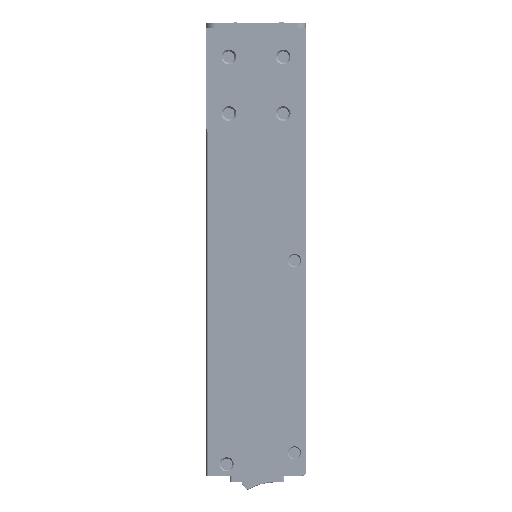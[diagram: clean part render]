
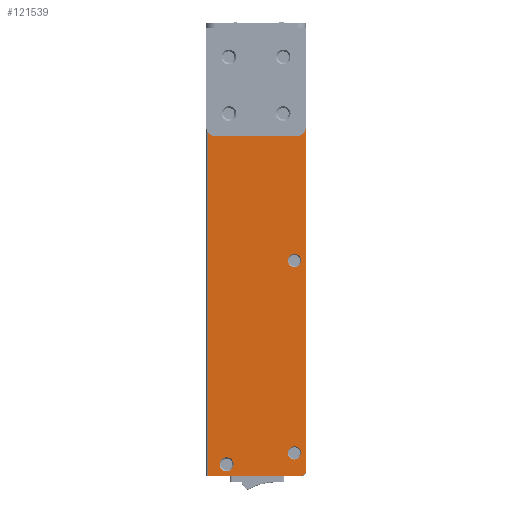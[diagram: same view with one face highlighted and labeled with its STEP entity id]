
A CAD part, left-side view. The second image highlights one B-rep face of the part: STEP entity #121539.
In plain terms, the highlighted planar face has unit normal (-1, 0, 0).
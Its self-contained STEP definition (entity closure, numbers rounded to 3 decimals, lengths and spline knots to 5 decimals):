
#2262=LINE('',#178833,#16146);
#2266=LINE('',#178842,#16150);
#2270=LINE('',#178850,#16154);
#2273=LINE('',#178860,#16157);
#2274=LINE('',#178862,#16158);
#2275=LINE('',#178864,#16159);
#2276=LINE('',#178866,#16160);
#16146=VECTOR('',#143300,1.);
#16150=VECTOR('',#143306,1.);
#16154=VECTOR('',#143312,1.);
#16157=VECTOR('',#143323,1.);
#16158=VECTOR('',#143324,1.);
#16159=VECTOR('',#143325,1.);
#16160=VECTOR('',#143326,1.);
#29072=PLANE('',#129517);
#39126=ORIENTED_EDGE('',*,*,#72925,.F.);
#39127=ORIENTED_EDGE('',*,*,#72931,.F.);
#39128=ORIENTED_EDGE('',*,*,#72934,.F.);
#39129=ORIENTED_EDGE('',*,*,#72937,.F.);
#39130=ORIENTED_EDGE('',*,*,#72940,.F.);
#39131=ORIENTED_EDGE('',*,*,#72943,.F.);
#39132=ORIENTED_EDGE('',*,*,#72945,.F.);
#39133=ORIENTED_EDGE('',*,*,#72947,.F.);
#39134=ORIENTED_EDGE('',*,*,#72956,.F.);
#39135=ORIENTED_EDGE('',*,*,#72952,.F.);
#39136=ORIENTED_EDGE('',*,*,#72948,.T.);
#39137=ORIENTED_EDGE('',*,*,#72961,.F.);
#39138=ORIENTED_EDGE('',*,*,#72962,.F.);
#39139=ORIENTED_EDGE('',*,*,#72963,.T.);
#39140=ORIENTED_EDGE('',*,*,#72964,.F.);
#39141=ORIENTED_EDGE('',*,*,#72960,.F.);
#72925=EDGE_CURVE('',#90236,#90236,#101230,.T.);
#72931=EDGE_CURVE('',#90242,#90242,#101236,.T.);
#72934=EDGE_CURVE('',#90245,#90245,#101239,.T.);
#72937=EDGE_CURVE('',#90248,#90248,#101242,.T.);
#72940=EDGE_CURVE('',#90251,#90251,#101245,.T.);
#72943=EDGE_CURVE('',#90254,#90254,#101248,.T.);
#72945=EDGE_CURVE('',#90256,#90256,#101250,.T.);
#72947=EDGE_CURVE('',#90258,#90258,#101252,.T.);
#72948=EDGE_CURVE('',#90259,#90260,#2262,.T.);
#72952=EDGE_CURVE('',#90259,#90263,#2266,.T.);
#72956=EDGE_CURVE('',#90263,#90266,#2270,.T.);
#72960=EDGE_CURVE('',#90266,#90268,#101254,.T.);
#72961=EDGE_CURVE('',#90269,#90260,#2273,.T.);
#72962=EDGE_CURVE('',#90270,#90269,#2274,.T.);
#72963=EDGE_CURVE('',#90270,#90271,#2275,.T.);
#72964=EDGE_CURVE('',#90268,#90271,#2276,.T.);
#90236=VERTEX_POINT('',#178772);
#90242=VERTEX_POINT('',#178789);
#90245=VERTEX_POINT('',#178797);
#90248=VERTEX_POINT('',#178805);
#90251=VERTEX_POINT('',#178813);
#90254=VERTEX_POINT('',#178821);
#90256=VERTEX_POINT('',#178826);
#90258=VERTEX_POINT('',#178831);
#90259=VERTEX_POINT('',#178834);
#90260=VERTEX_POINT('',#178835);
#90263=VERTEX_POINT('',#178843);
#90266=VERTEX_POINT('',#178851);
#90268=VERTEX_POINT('',#178856);
#90269=VERTEX_POINT('',#178861);
#90270=VERTEX_POINT('',#178863);
#90271=VERTEX_POINT('',#178865);
#101230=CIRCLE('',#129473,0.0022);
#101236=CIRCLE('',#129484,0.0022);
#101239=CIRCLE('',#129489,0.0031);
#101242=CIRCLE('',#129494,0.0029);
#101245=CIRCLE('',#129499,0.0029);
#101248=CIRCLE('',#129504,0.0029);
#101250=CIRCLE('',#129507,0.002);
#101252=CIRCLE('',#129510,0.002);
#101254=CIRCLE('',#129516,0.002);
#105976=EDGE_LOOP('',(#39126));
#105977=EDGE_LOOP('',(#39127));
#105978=EDGE_LOOP('',(#39128));
#105979=EDGE_LOOP('',(#39129));
#105980=EDGE_LOOP('',(#39130));
#105981=EDGE_LOOP('',(#39131));
#105982=EDGE_LOOP('',(#39132));
#105983=EDGE_LOOP('',(#39133));
#105984=EDGE_LOOP('',(#39134,#39135,#39136,#39137,#39138,#39139,#39140,
#39141));
#113892=FACE_BOUND('',#105976,.T.);
#113893=FACE_BOUND('',#105977,.T.);
#113894=FACE_BOUND('',#105978,.T.);
#113895=FACE_BOUND('',#105979,.T.);
#113896=FACE_BOUND('',#105980,.T.);
#113897=FACE_BOUND('',#105981,.T.);
#113898=FACE_BOUND('',#105982,.T.);
#113899=FACE_BOUND('',#105983,.T.);
#113900=FACE_BOUND('',#105984,.T.);
#121539=ADVANCED_FACE('',(#113892,#113893,#113894,#113895,#113896,#113897,
#113898,#113899,#113900),#29072,.T.);
#129473=AXIS2_PLACEMENT_3D('',#178771,#143222,#143223);
#129484=AXIS2_PLACEMENT_3D('',#178788,#143244,#143245);
#129489=AXIS2_PLACEMENT_3D('',#178796,#143254,#143255);
#129494=AXIS2_PLACEMENT_3D('',#178804,#143264,#143265);
#129499=AXIS2_PLACEMENT_3D('',#178812,#143274,#143275);
#129504=AXIS2_PLACEMENT_3D('',#178820,#143284,#143285);
#129507=AXIS2_PLACEMENT_3D('',#178825,#143290,#143291);
#129510=AXIS2_PLACEMENT_3D('',#178830,#143296,#143297);
#129516=AXIS2_PLACEMENT_3D('',#178858,#143319,#143320);
#129517=AXIS2_PLACEMENT_3D('',#178859,#143321,#143322);
#143222=DIRECTION('',(-1.,0.,0.));
#143223=DIRECTION('',(0.,0.,-1.));
#143244=DIRECTION('',(-1.,0.,0.));
#143245=DIRECTION('',(0.,0.,-1.));
#143254=DIRECTION('',(-1.,0.,0.));
#143255=DIRECTION('',(0.,0.,-1.));
#143264=DIRECTION('',(-1.,0.,0.));
#143265=DIRECTION('',(0.,0.,1.));
#143274=DIRECTION('',(-1.,0.,0.));
#143275=DIRECTION('',(0.,0.,1.));
#143284=DIRECTION('',(-1.,0.,0.));
#143285=DIRECTION('',(0.,0.,-1.));
#143290=DIRECTION('',(-1.,0.,0.));
#143291=DIRECTION('',(0.,0.,1.));
#143296=DIRECTION('',(-1.,0.,0.));
#143297=DIRECTION('',(0.,0.,1.));
#143300=DIRECTION('',(0.,0.,1.));
#143306=DIRECTION('',(0.,-1.,0.));
#143312=DIRECTION('',(0.,0.,-1.));
#143319=DIRECTION('',(1.,0.,0.));
#143320=DIRECTION('',(0.,-1.,0.));
#143321=DIRECTION('',(-1.,0.,0.));
#143322=DIRECTION('',(0.,0.,-1.));
#143323=DIRECTION('',(0.,-0.707,-0.707));
#143324=DIRECTION('',(0.,-1.,0.));
#143325=DIRECTION('',(0.,0.,-1.));
#143326=DIRECTION('',(0.,1.,0.));
#178771=CARTESIAN_POINT('',(-0.22,0.034,0.065));
#178772=CARTESIAN_POINT('',(-0.22,0.034,0.0628));
#178788=CARTESIAN_POINT('',(-0.22,0.034,0.09));
#178789=CARTESIAN_POINT('',(-0.22,0.034,0.0878));
#178796=CARTESIAN_POINT('',(-0.22,0.035,-0.09));
#178797=CARTESIAN_POINT('',(-0.22,0.035,-0.0931));
#178804=CARTESIAN_POINT('',(-0.22,0.005,-0.085));
#178805=CARTESIAN_POINT('',(-0.22,0.005,-0.0821));
#178812=CARTESIAN_POINT('',(-0.22,0.005,0.));
#178813=CARTESIAN_POINT('',(-0.22,0.005,0.0029));
#178820=CARTESIAN_POINT('',(-0.22,0.005,0.085));
#178821=CARTESIAN_POINT('',(-0.22,0.005,0.0821));
#178825=CARTESIAN_POINT('',(-0.22,0.01,0.09));
#178826=CARTESIAN_POINT('',(-0.22,0.01,0.092));
#178830=CARTESIAN_POINT('',(-0.22,0.01,0.065));
#178831=CARTESIAN_POINT('',(-0.22,0.01,0.067));
#178833=CARTESIAN_POINT('',(-0.22,0.0011,0.0949));
#178834=CARTESIAN_POINT('',(-0.22,0.0011,0.0949));
#178835=CARTESIAN_POINT('',(-0.22,0.0011,0.1037));
#178842=CARTESIAN_POINT('',(-0.22,0.0011,0.0949));
#178843=CARTESIAN_POINT('',(-0.22,0.,0.0949));
#178850=CARTESIAN_POINT('',(-0.22,0.,0.0949));
#178851=CARTESIAN_POINT('',(-0.22,0.,-0.093));
#178856=CARTESIAN_POINT('',(-0.22,0.002,-0.095));
#178858=CARTESIAN_POINT('',(-0.22,0.002,-0.093));
#178859=CARTESIAN_POINT('',(-0.22,0.044,-0.095));
#178860=CARTESIAN_POINT('',(-0.22,0.0014,0.104));
#178861=CARTESIAN_POINT('',(-0.22,0.00139,0.10399));
#178862=CARTESIAN_POINT('',(-0.22,0.0215,0.10399));
#178863=CARTESIAN_POINT('',(-0.22,0.043,0.10399));
#178864=CARTESIAN_POINT('',(-0.22,0.043,0.104));
#178865=CARTESIAN_POINT('',(-0.22,0.043,-0.095));
#178866=CARTESIAN_POINT('',(-0.22,0.002,-0.095));
